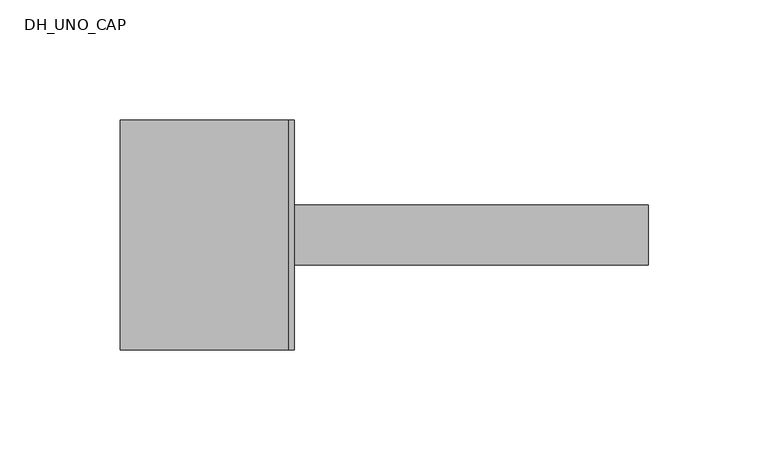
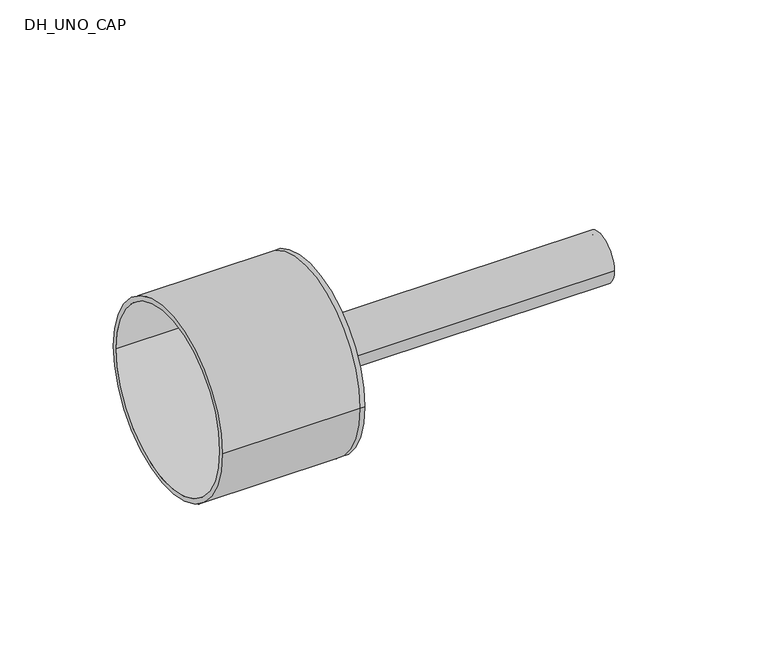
"""IFC4 building model written with IfcOpenShell, lengths in millimetres: pipe fitting geometry, DH_UNO_CAP : RAUTHERMEX UNO + 11 Heating - Solid Cap."""

import ifcopenshell
import ifcopenshell.guid

model = None  # the IFC model being written
_history = None  # IfcOwnerHistory: only IFC2X3 demands one
_inside = {}  # id of a spatial element -> (the spatial element, [elements in it])
_under = {}  # id of a project, library or spatial element -> (it, [spatial elements below it])
_declared = {}  # id of a project -> (the project, [libraries it declares])
_typed = {}  # id of a type object -> (the type object, [elements of that type])
_made_of = {}  # id of a material, layer set ... -> (it, [elements and type objects made of it])


def new_model(schema):
    """Start an empty IFC model of exactly this schema.

    Asked for "IFC4X3", IfcOpenShell would pick the latest addendum, in which some entities
    have other attributes; the version numbers below select the first issue.
    IFC2X3 requires an IfcOwnerHistory on every rooted entity: one is made here for all.
    """
    global model, _history
    if schema == "IFC4X3":
        model = ifcopenshell.file(schema_version=(4, 3, 0, 0))
    else:
        model = ifcopenshell.file(schema=schema)
    _inside.clear()
    _under.clear()
    _declared.clear()
    _typed.clear()
    _made_of.clear()
    _history = None
    if model.schema == "IFC2X3":
        org = make("IfcOrganization", Name="unknown")
        user = make(
            "IfcPersonAndOrganization",
            ThePerson=make("IfcPerson", FamilyName="unknown"),
            TheOrganization=org,
        )
        app = make(
            "IfcApplication",
            ApplicationDeveloper=org,
            Version="unknown",
            ApplicationFullName="unknown",
            ApplicationIdentifier="unknown",
        )
        _history = make(
            "IfcOwnerHistory",
            OwningUser=user,
            OwningApplication=app,
            ChangeAction="ADDED",
            CreationDate=0,
        )
    return model


def make(cls, **values):
    """One entity of the class cls with the attributes given. An attribute that is None is left unset."""
    return model.create_entity(
        cls, **{name: value for name, value in values.items() if value is not None}
    )


def rooted(cls, **values):
    """An entity with a GlobalId (a new one), such as an element, a storey or a relation."""
    return make(cls, GlobalId=ifcopenshell.guid.new(), OwnerHistory=_history, **values)


def si_unit(unit_type, name, prefix=None):
    """IfcSIUnit, for example si_unit("LENGTHUNIT", "METRE", prefix="MILLI")."""
    return make("IfcSIUnit", UnitType=unit_type, Prefix=prefix, Name=name)


def assignment(units):
    """IfcUnitAssignment: the units of a project."""
    return None if units is None else make("IfcUnitAssignment", Units=units)


def point(xyz):
    """IfcCartesianPoint."""
    return None if xyz is None else make("IfcCartesianPoint", Coordinates=xyz)


def direction(xyz):
    """IfcDirection."""
    return None if xyz is None else make("IfcDirection", DirectionRatios=xyz)


def frame(location, z_axis=None, x_axis=None):
    """IfcAxis2Placement3D, a coordinate frame: its origin and axes. An axis left out is left unset."""
    return make(
        "IfcAxis2Placement3D",
        Location=point(location),
        Axis=direction(z_axis),
        RefDirection=direction(x_axis),
    )


def frame_2d(location, x_axis=None):
    """IfcAxis2Placement2D, a coordinate frame in the plane: its origin and x axis."""
    return make(
        "IfcAxis2Placement2D", Location=point(location), RefDirection=direction(x_axis)
    )


def origin():
    """The frame at (0, 0, 0) with its axes left unset."""
    return frame((0.0, 0.0, 0.0))


def origin_2d():
    """The frame at (0, 0) in the plane with its x axis left unset."""
    return frame_2d((0.0, 0.0))


def place(relative_to, where):
    """IfcLocalPlacement: puts the frame where relative to a parent placement (None: the world)."""
    return make(
        "IfcLocalPlacement", PlacementRelTo=relative_to, RelativePlacement=where
    )


def context(
    kind, dimensions, precision=None, world=None, true_north=None, identifier=None
):
    """IfcGeometricRepresentationContext, for example the 3D "Model" context."""
    return make(
        "IfcGeometricRepresentationContext",
        ContextIdentifier=identifier,
        ContextType=kind,
        CoordinateSpaceDimension=dimensions,
        Precision=precision,
        WorldCoordinateSystem=world,
        TrueNorth=true_north,
    )


def project(units=None, contexts=None):
    """IfcProject with its units and contexts."""
    return rooted(
        "IfcProject",
        Name="project",
        RepresentationContexts=contexts,
        UnitsInContext=assignment(units),
    )


def spatial(cls, under=None, at=None, **own):
    """A site, building, storey or space (cls), placed at a placement, below another one or the project."""
    s = rooted(cls, ObjectPlacement=at, **own)
    if under is not None:
        _under.setdefault(under.id(), (under, []))[1].append(s)
    return s


def polyline(points):
    """IfcPolyline through the points."""
    return make("IfcPolyline", Points=[point(p) for p in points])


def circle_curve(where, radius):
    """IfcCircle in the frame where."""
    return make("IfcCircle", Position=where, Radius=radius)


def trimmed(basis, trim1, trim2, sense, master):
    """IfcTrimmedCurve: the piece of a basis curve between two trims."""
    return make(
        "IfcTrimmedCurve",
        BasisCurve=basis,
        Trim1=trim1,
        Trim2=trim2,
        SenseAgreement=sense,
        MasterRepresentation=master,
    )


def segment(curve, same_sense, transition):
    """IfcCompositeCurveSegment."""
    return make(
        "IfcCompositeCurveSegment",
        Transition=transition,
        SameSense=same_sense,
        ParentCurve=curve,
    )


def composite_curve(segments, self_intersect=None):
    """IfcCompositeCurve: segments joined end to end."""
    return make("IfcCompositeCurve", Segments=segments, SelfIntersect=self_intersect)


def outline(outer, holes=None, kind="AREA"):
    """IfcArbitraryClosedProfileDef: a profile drawn as a closed curve; with holes, ...WithVoids."""
    if holes is None:
        return make("IfcArbitraryClosedProfileDef", ProfileType=kind, OuterCurve=outer)
    return make(
        "IfcArbitraryProfileDefWithVoids",
        ProfileType=kind,
        OuterCurve=outer,
        InnerCurves=holes,
    )


def extrude(swept, where, along, depth):
    """IfcExtrudedAreaSolid: the profile swept, set in the frame where, extruded along a direction by depth."""
    return make(
        "IfcExtrudedAreaSolid",
        SweptArea=swept,
        Position=where,
        ExtrudedDirection=direction(along),
        Depth=depth,
    )


def shape(context_of_items, identifier, shape_type, items):
    """IfcShapeRepresentation: the items that make up one representation, for example the "Body"."""
    return make(
        "IfcShapeRepresentation",
        ContextOfItems=context_of_items,
        RepresentationIdentifier=identifier,
        RepresentationType=shape_type,
        Items=items,
    )


def source(mapping_origin, context_of_items, identifier, shape_type, items):
    """IfcRepresentationMap: a shape defined once, which mapped items show again and again."""
    return make(
        "IfcRepresentationMap",
        MappingOrigin=mapping_origin,
        MappedRepresentation=shape(context_of_items, identifier, shape_type, items),
    )


def transform(
    local_origin,
    x_axis=None,
    y_axis=None,
    z_axis=None,
    scale=None,
    scale2=None,
    scale3=None,
    uniform=True,
):
    """IfcCartesianTransformationOperator3D, or its non-uniform kind. x_axis, y_axis, z_axis: its Axis1, 2, 3."""
    if uniform:
        return make(
            "IfcCartesianTransformationOperator3D",
            Axis1=direction(x_axis),
            Axis2=direction(y_axis),
            LocalOrigin=point(local_origin),
            Scale=scale,
            Axis3=direction(z_axis),
        )
    return make(
        "IfcCartesianTransformationOperator3DnonUniform",
        Axis1=direction(x_axis),
        Axis2=direction(y_axis),
        LocalOrigin=point(local_origin),
        Scale=scale,
        Axis3=direction(z_axis),
        Scale2=scale2,
        Scale3=scale3,
    )


def mapped(mapping_source, mapping_target):
    """IfcMappedItem: shows the shape of a source again, moved by a transform."""
    return make(
        "IfcMappedItem", MappingSource=mapping_source, MappingTarget=mapping_target
    )


def made_of(thing, what):
    """Note that an element or type object is made of a material, layer set ...; save() writes the relation."""
    if what is not None:
        _made_of.setdefault(what.id(), (what, []))[1].append(thing)
    return thing


def element(
    cls,
    number,
    at=None,
    inside=None,
    cuts=None,
    type_object=None,
    material=None,
    context=None,
    identifier="Body",
    shape_type=None,
    held_by="IfcProductDefinitionShape",
    body=None,
    shapes=None,
    **own,
):
    """One element of the class cls, such as IfcWall. Its Tag is "e" and its number.

    at: its placement. inside: the storey or other place that contains it. cuts: it is an
    opening in that element (IfcRelVoidsElement). A single representation is given by context,
    identifier, shape_type and body (its items); several are given by shapes. held_by: the class
    of the entity that holds the representations. save() writes the other relations.
    """
    e = rooted(cls, Tag="e%d" % number, ObjectPlacement=at, **own)
    if body is not None:
        shapes = [shape(context, identifier, shape_type, body)]
    if shapes is not None:
        e.Representation = make(held_by, Representations=shapes)
    if inside is not None:
        _inside.setdefault(inside.id(), (inside, []))[1].append(e)
    if cuts is not None:
        rooted(
            "IfcRelVoidsElement", RelatingBuildingElement=cuts, RelatedOpeningElement=e
        )
    if type_object is not None:
        _typed.setdefault(type_object.id(), (type_object, []))[1].append(e)
    return made_of(e, material)


def aggregate(whole, parts):
    """IfcRelAggregates: a whole, such as a stair, and the parts it consists of."""
    return rooted("IfcRelAggregates", RelatingObject=whole, RelatedObjects=parts)


def save(model, path):
    """Write the relations noted so far, then the file.

    IfcRelAggregates (storeys below a building ...), IfcRelContainedInSpatialStructure (elements
    in a storey), IfcRelDefinesByType, IfcRelAssociatesMaterial and IfcRelDeclares: one each for
    every whole, place, type object, material and project.
    """
    for whole, parts in _under.values():
        aggregate(whole, parts)
    for where, things in _inside.values():
        rooted(
            "IfcRelContainedInSpatialStructure",
            RelatedElements=things,
            RelatingStructure=where,
        )
    for kind, things in _typed.values():
        rooted("IfcRelDefinesByType", RelatedObjects=things, RelatingType=kind)
    for what, things in _made_of.values():
        rooted("IfcRelAssociatesMaterial", RelatedObjects=things, RelatingMaterial=what)
    for by, libraries in _declared.values():
        rooted("IfcRelDeclares", RelatingContext=by, RelatedDefinitions=libraries)
    model.write(path)


def plane_surface(at):
    """IfcPlane: the flat surface through the origin of the frame at, square to its z axis."""
    return make("IfcPlane", Position=at)


def cylinder_surface(at, radius):
    """IfcCylindricalSurface: all points at the distance radius from the z axis of the frame at."""
    return make("IfcCylindricalSurface", Position=at, Radius=radius)


def revolved_surface(curve, axis_point, axis_direction):
    """IfcSurfaceOfRevolution: the curve turned about the line through axis_point along axis_direction."""
    return make(
        "IfcSurfaceOfRevolution",
        SweptCurve=make("IfcArbitraryOpenProfileDef", ProfileType="CURVE", Curve=curve),
        AxisPosition=make("IfcAxis1Placement", Location=point(axis_point), Axis=direction(axis_direction)),
    )


def advanced_brep(points, edges, surfaces, faces):
    """IfcAdvancedBrep: a solid bounded by faces that lie on surfaces and meet in shared edges.

    An edge is (start, end): straight between two places in points (the first is 0);
    or (start, end, curve); or (start, end, curve, False) where it runs against its curve.
    A face is (place in surfaces, loops), or (place, loops, False) where it looks against
    its surface's normal. A loop lists edges by number (the first is 1), with a minus sign
    where the edge is run from its end to its start. The first loop is the outer one.
    """
    corners = [point(p) for p in points]
    vertices = [make("IfcVertexPoint", VertexGeometry=c) for c in corners]
    made = []
    for start, end, *more in edges:
        made.append(
            make(
                "IfcEdgeCurve",
                EdgeStart=vertices[start],
                EdgeEnd=vertices[end],
                EdgeGeometry=more[0] if more else make("IfcPolyline", Points=[corners[start], corners[end]]),
                SameSense=more[1] if len(more) > 1 else True,
            )
        )
    hull = []
    for where, loops, *sense in faces:
        bounds = []
        for j, loop in enumerate(loops):
            ring = [make("IfcOrientedEdge", EdgeElement=made[abs(k) - 1], Orientation=k > 0) for k in loop]
            bounds.append(
                make(
                    "IfcFaceOuterBound" if j == 0 else "IfcFaceBound",
                    Bound=make("IfcEdgeLoop", EdgeList=ring),
                    Orientation=True,
                )
            )
        hull.append(make("IfcAdvancedFace", Bounds=bounds, FaceSurface=surfaces[where], SameSense=sense[0] if sense else True))
    return make("IfcAdvancedBrep", Outer=make("IfcClosedShell", CfsFaces=hull))


def dh_uno_cap_98028304(model_context):
    return source(origin(), model_context, "Body", "SolidModel", [
        extrude(outline(composite_curve([segment(trimmed(circle_curve(origin_2d(), 12.5), [point((-12.5, 0.0))], [point((12.5, 0.0))], False, "CARTESIAN"), True, "CONTINUOUS"), segment(trimmed(circle_curve(origin_2d(), 12.5), [point((12.5, 0.0))], [point((-12.5, 0.0))], False, "CARTESIAN"), True, "CONTINUOUS")], self_intersect=False), holes=[composite_curve([segment(trimmed(circle_curve(origin_2d(), 10.2), [point((-10.2, 0.0))], [point((10.2, 0.0))], True, "CARTESIAN"), True, "CONTINUOUS"), segment(trimmed(circle_curve(origin_2d(), 10.2), [point((10.2, 0.0))], [point((-10.2, 0.0))], True, "CARTESIAN"), True, "CONTINUOUS")], self_intersect=False)]), frame((0.0, 0.0, 0.0), z_axis=(1.0, 0.0, 0.0), x_axis=(0.0, 1.0, 0.0)), (0.0, 0.0, 1.0), 150.0),
        advanced_brep(
        [(-70.0, -48.0, 0.0), (-70.0, 48.0, 0.0), (-70.0, -45.5, 0.0), (-70.0, 45.5, 0.0), (0.0, -45.5, 0.0), (0.0, 45.5, 0.0), (0.0, -48.0, 0.0), (0.0, 48.0, 0.0), (0.0, 12.5, 0.0), (0.0, -12.5, 0.0), (2.5, -48.0, 0.0), (2.5, 48.0, 0.0), (2.5, -12.5, 0.0), (2.5, 12.5, 0.0)],
        [
            (0, 1, circle_curve(frame((-70.0, 0.0, 0.0), z_axis=(-1.0, 0.0, 0.0), x_axis=(0.0, 1.0, 0.0)), 48.0)),
            (1, 0, circle_curve(frame((-70.0, 0.0, 0.0), z_axis=(-1.0, 0.0, 0.0), x_axis=(0.0, 1.0, 0.0)), 48.0)),
            (2, 3, circle_curve(frame((-70.0, 0.0, 0.0), z_axis=(1.0, 0.0, 0.0), x_axis=(0.0, 1.0, 0.0)), 45.5)),
            (3, 2, circle_curve(frame((-70.0, 0.0, 0.0), z_axis=(1.0, 0.0, 0.0), x_axis=(0.0, 1.0, 0.0)), 45.5)),
            (2, 4),
            (4, 5, circle_curve(frame((0.0, 0.0, 0.0), z_axis=(1.0, 0.0, 0.0), x_axis=(0.0, 1.0, 0.0)), 45.5)),
            (5, 3),
            (5, 4, circle_curve(frame((0.0, 0.0, 0.0), z_axis=(1.0, 0.0, 0.0), x_axis=(0.0, 1.0, 0.0)), 45.5)),
            (0, 6),
            (6, 7, circle_curve(frame((0.0, 0.0, 0.0), z_axis=(-1.0, 0.0, 0.0), x_axis=(0.0, 1.0, 0.0)), 48.0)),
            (7, 1),
            (7, 6, circle_curve(frame((0.0, 0.0, 0.0), z_axis=(-1.0, 0.0, 0.0), x_axis=(0.0, 1.0, 0.0)), 48.0)),
            (8, 9, circle_curve(frame((0.0, 0.0, 0.0), z_axis=(1.0, 0.0, 0.0), x_axis=(0.0, 1.0, 0.0)), 12.5)),
            (9, 8, circle_curve(frame((0.0, 0.0, 0.0), z_axis=(1.0, 0.0, 0.0), x_axis=(0.0, 1.0, 0.0)), 12.5)),
            (10, 11, circle_curve(frame((2.5, 0.0, 0.0), z_axis=(1.0, 0.0, 0.0), x_axis=(0.0, 1.0, 0.0)), 48.0)),
            (11, 10, circle_curve(frame((2.5, 0.0, 0.0), z_axis=(1.0, 0.0, 0.0), x_axis=(0.0, 1.0, 0.0)), 48.0)),
            (12, 13, circle_curve(frame((2.5, 0.0, 0.0), z_axis=(-1.0, 0.0, 0.0), x_axis=(0.0, 1.0, 0.0)), 12.5)),
            (13, 12, circle_curve(frame((2.5, 0.0, 0.0), z_axis=(-1.0, 0.0, 0.0), x_axis=(0.0, 1.0, 0.0)), 12.5)),
            (11, 7),
            (6, 10),
            (8, 13),
            (12, 9),
        ],
        [
            plane_surface(frame((-70.0, 0.0, 0.0), z_axis=(-1.0, 0.0, 0.0), x_axis=(0.0, 0.0, 1.0))),
            revolved_surface(polyline([(0.0, 45.5, 0.0), (-70.0, 45.5, 0.0)]), (-70.0, 0.0, 0.0), (1.0, 0.0, 0.0)),
            cylinder_surface(frame((-70.0, 0.0, 0.0), z_axis=(-1.0, 0.0, 0.0), x_axis=(0.0, 1.0, 0.0)), 48.0),
            plane_surface(frame((0.0, 0.0, 0.0), z_axis=(-1.0, 0.0, 0.0), x_axis=(0.0, 0.0, 1.0))),
            plane_surface(frame((2.5, 0.0, 0.0), z_axis=(1.0, 0.0, 0.0), x_axis=(0.0, 0.0, 1.0))),
            cylinder_surface(frame((0.0, 0.0, 0.0), z_axis=(-1.0, 0.0, 0.0), x_axis=(0.0, 1.0, 0.0)), 48.0),
            revolved_surface(polyline([(0.0, 12.5, 0.0), (2.5, 12.5, 0.0)]), (0.0, 0.0, 0.0), (-1.0, 0.0, 0.0)),
        ],
        [
            (0, [[1, 2], [3, 4]]),
            (1, [[-3, 5, 6, 7]]),
            (1, [[-4, -7, 8, -5]]),
            (2, [[-1, 9, 10, 11]]),
            (2, [[-2, -11, 12, -9]]),
            (3, [[-6, -8], [13, 14]]),
            (4, [[15, 16], [17, 18]]),
            (5, [[-16, 19, -10, 20]]),
            (5, [[-15, -20, -12, -19]]),
            (6, [[21, -17, 22, -13]]),
            (6, [[-21, -14, -22, -18]]),
        ],
    ),
    ])


if __name__ == "__main__":
    model = new_model("IFC4")
    model_context = context("Model", 3, world=origin())
    ifc_project = project(units=[si_unit("LENGTHUNIT", "METRE", prefix="MILLI")], contexts=[model_context])
    site = spatial("IfcSite", under=ifc_project)
    building = spatial("IfcBuilding", under=site)
    placement = place(None, origin())
    dh_uno_cap_shape = dh_uno_cap_98028304(model_context)
    element("IfcPipeFitting", 1, ObjectType="DH_UNO_CAP : RAUTHERMEX UNO + 11 Heating - Solid Cap", at=placement, inside=building, context=model_context, shape_type="MappedRepresentation", body=[
        mapped(dh_uno_cap_shape, transform((0.0, 0.0, 0.0), x_axis=(1.0, 0.0, 0.0), y_axis=(0.0, 1.0, 0.0), z_axis=(0.0, 0.0, 1.0))),
    ])
    save(model, "model.ifc")
